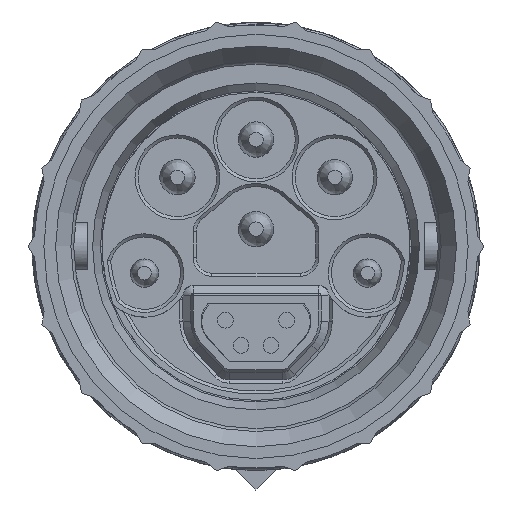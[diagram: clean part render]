
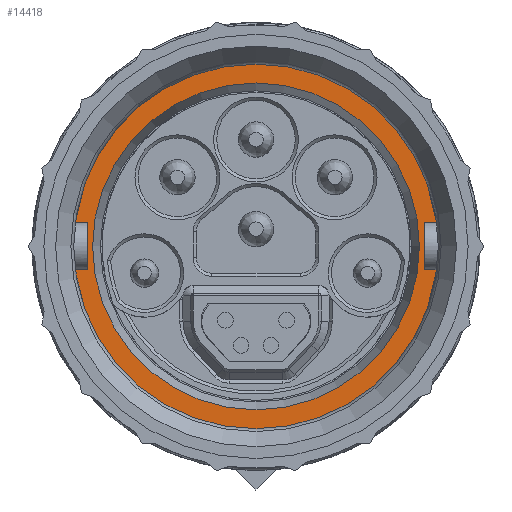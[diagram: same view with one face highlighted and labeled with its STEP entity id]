
A CAD part, front view. The second image highlights one B-rep face of the part: STEP entity #14418.
In plain terms, the highlighted planar face has unit normal (0, -1, 0).
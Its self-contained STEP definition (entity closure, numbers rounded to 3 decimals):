
#134=FACE_BOUND('',#2046,.T.);
#656=PLANE('',#15317);
#1289=FACE_OUTER_BOUND('',#2045,.T.);
#2045=EDGE_LOOP('',(#12097,#12098,#12099,#12100));
#2046=EDGE_LOOP('',(#12101));
#2397=CIRCLE('',#15316,10.4);
#2398=CIRCLE('',#15318,11.65);
#2399=CIRCLE('',#15319,2.);
#2400=CIRCLE('',#15320,12.55);
#2401=CIRCLE('',#15321,2.);
#6777=VERTEX_POINT('',#23113);
#6778=VERTEX_POINT('',#23117);
#6779=VERTEX_POINT('',#23118);
#6780=VERTEX_POINT('',#23120);
#6781=VERTEX_POINT('',#23122);
#8593=EDGE_CURVE('',#6777,#6777,#2397,.T.);
#8594=EDGE_CURVE('',#6778,#6779,#2398,.T.);
#8595=EDGE_CURVE('',#6780,#6779,#2399,.F.);
#8596=EDGE_CURVE('',#6780,#6781,#2400,.T.);
#8597=EDGE_CURVE('',#6781,#6778,#2401,.T.);
#12097=ORIENTED_EDGE('',*,*,#8594,.T.);
#12098=ORIENTED_EDGE('',*,*,#8595,.F.);
#12099=ORIENTED_EDGE('',*,*,#8596,.T.);
#12100=ORIENTED_EDGE('',*,*,#8597,.T.);
#12101=ORIENTED_EDGE('',*,*,#8593,.F.);
#14418=ADVANCED_FACE('',(#1289,#134),#656,.T.);
#15316=AXIS2_PLACEMENT_3D('',#23115,#18396,#18397);
#15317=AXIS2_PLACEMENT_3D('',#23116,#18398,#18399);
#15318=AXIS2_PLACEMENT_3D('',#23119,#18400,#18401);
#15319=AXIS2_PLACEMENT_3D('',#23121,#18402,#18403);
#15320=AXIS2_PLACEMENT_3D('',#23123,#18404,#18405);
#15321=AXIS2_PLACEMENT_3D('',#23124,#18406,#18407);
#18396=DIRECTION('center_axis',(0.,-1.,0.));
#18397=DIRECTION('ref_axis',(1.,0.,0.));
#18398=DIRECTION('center_axis',(0.,-1.,0.));
#18399=DIRECTION('ref_axis',(1.,0.,0.));
#18400=DIRECTION('center_axis',(0.,-1.,0.));
#18401=DIRECTION('ref_axis',(-0.087,0.,0.996));
#18402=DIRECTION('center_axis',(0.,1.,0.));
#18403=DIRECTION('ref_axis',(0.751,0.,0.661));
#18404=DIRECTION('center_axis',(0.,-1.,0.));
#18405=DIRECTION('ref_axis',(-1.,0.,0.));
#18406=DIRECTION('center_axis',(0.,1.,0.));
#18407=DIRECTION('ref_axis',(0.236,0.,-0.972));
#23113=CARTESIAN_POINT('',(-10.4,8.7,0.));
#23115=CARTESIAN_POINT('Origin',(0.,8.7,0.));
#23116=CARTESIAN_POINT('Origin',(-12.55,8.7,0.));
#23117=CARTESIAN_POINT('',(1.015,8.7,-11.606));
#23118=CARTESIAN_POINT('',(7.488,8.7,8.924));
#23119=CARTESIAN_POINT('Origin',(0.,8.7,0.));
#23120=CARTESIAN_POINT('',(9.42,8.7,8.293));
#23121=CARTESIAN_POINT('Origin',(7.919,8.7,6.971));
#23122=CARTESIAN_POINT('',(2.96,8.7,-12.196));
#23123=CARTESIAN_POINT('Origin',(0.,8.7,0.));
#23124=CARTESIAN_POINT('Origin',(2.488,8.7,-10.252));
